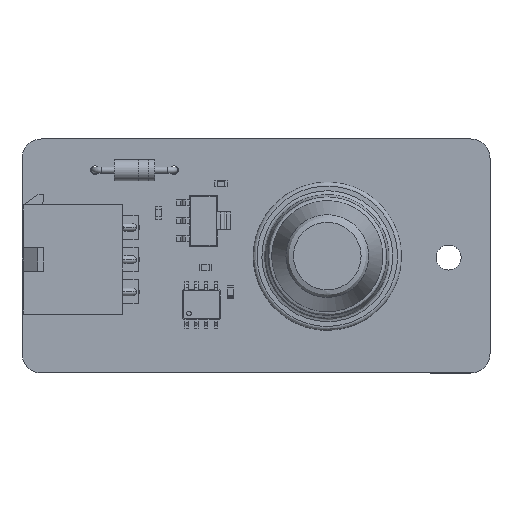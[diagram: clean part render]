
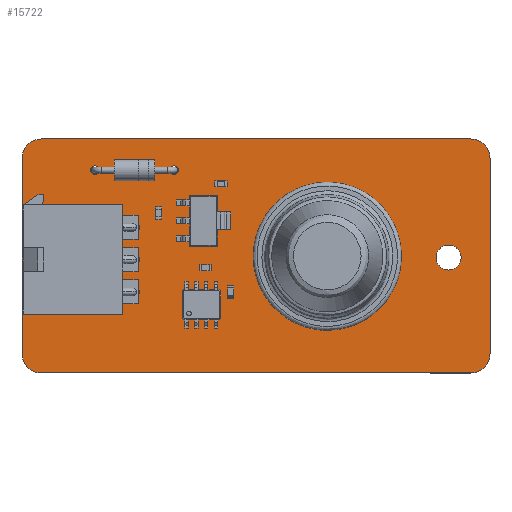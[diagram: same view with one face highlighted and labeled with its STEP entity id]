
A CAD part, top view. The second image highlights one B-rep face of the part: STEP entity #15722.
In plain terms, the highlighted planar face has unit normal (0, 0, 1).
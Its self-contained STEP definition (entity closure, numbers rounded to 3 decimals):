
#15430 = VERTEX_POINT('',#15431);
#15431 = CARTESIAN_POINT('',(166.007,-56.5,1.6));
#15437 = EDGE_CURVE('',#15430,#15438,#15440,.T.);
#15438 = VERTEX_POINT('',#15439);
#15439 = CARTESIAN_POINT('',(168.5,-58.993,1.6));
#15440 = CIRCLE('',#15441,2.493);
#15441 = AXIS2_PLACEMENT_3D('',#15442,#15443,#15444);
#15442 = CARTESIAN_POINT('',(166.007,-58.993,1.6));
#15443 = DIRECTION('',(0.,0.,-1.));
#15444 = DIRECTION('',(0.,1.,0.));
#15472 = VERTEX_POINT('',#15473);
#15473 = CARTESIAN_POINT('',(111.,-56.5,1.6));
#15479 = EDGE_CURVE('',#15472,#15430,#15480,.T.);
#15480 = LINE('',#15481,#15482);
#15481 = CARTESIAN_POINT('',(111.,-56.5,1.6));
#15482 = VECTOR('',#15483,1.);
#15483 = DIRECTION('',(1.,0.,0.));
#15501 = EDGE_CURVE('',#15438,#15502,#15504,.T.);
#15502 = VERTEX_POINT('',#15503);
#15503 = CARTESIAN_POINT('',(168.5,-84.01,1.6));
#15504 = LINE('',#15505,#15506);
#15505 = CARTESIAN_POINT('',(168.5,-58.993,1.6));
#15506 = VECTOR('',#15507,1.);
#15507 = DIRECTION('',(0.,-1.,0.));
#15722 = ADVANCED_FACE('',(#15723,#15769,#15780,#15791,#15802,#15813,
    #15824,#15835,#15846,#15857,#15868,#15879,#15890,#15901),#15912,.T.
  );
#15723 = FACE_BOUND('',#15724,.T.);
#15724 = EDGE_LOOP('',(#15725,#15726,#15727,#15736,#15744,#15753,#15761,
    #15768));
#15725 = ORIENTED_EDGE('',*,*,#15437,.F.);
#15726 = ORIENTED_EDGE('',*,*,#15479,.F.);
#15727 = ORIENTED_EDGE('',*,*,#15728,.F.);
#15728 = EDGE_CURVE('',#15729,#15472,#15731,.T.);
#15729 = VERTEX_POINT('',#15730);
#15730 = CARTESIAN_POINT('',(108.5,-59.,1.6));
#15731 = CIRCLE('',#15732,2.5);
#15732 = AXIS2_PLACEMENT_3D('',#15733,#15734,#15735);
#15733 = CARTESIAN_POINT('',(111.,-59.,1.6));
#15734 = DIRECTION('',(0.,0.,-1.));
#15735 = DIRECTION('',(-1.,0.,-0.));
#15736 = ORIENTED_EDGE('',*,*,#15737,.F.);
#15737 = EDGE_CURVE('',#15738,#15729,#15740,.T.);
#15738 = VERTEX_POINT('',#15739);
#15739 = CARTESIAN_POINT('',(108.497,-84.,1.6));
#15740 = LINE('',#15741,#15742);
#15741 = CARTESIAN_POINT('',(108.497,-84.,1.6));
#15742 = VECTOR('',#15743,1.);
#15743 = DIRECTION('',(0.,1.,0.));
#15744 = ORIENTED_EDGE('',*,*,#15745,.F.);
#15745 = EDGE_CURVE('',#15746,#15738,#15748,.T.);
#15746 = VERTEX_POINT('',#15747);
#15747 = CARTESIAN_POINT('',(110.99,-86.493,1.6));
#15748 = CIRCLE('',#15749,2.493);
#15749 = AXIS2_PLACEMENT_3D('',#15750,#15751,#15752);
#15750 = CARTESIAN_POINT('',(110.99,-84.,1.6));
#15751 = DIRECTION('',(0.,0.,-1.));
#15752 = DIRECTION('',(0.,-1.,-0.));
#15753 = ORIENTED_EDGE('',*,*,#15754,.F.);
#15754 = EDGE_CURVE('',#15755,#15746,#15757,.T.);
#15755 = VERTEX_POINT('',#15756);
#15756 = CARTESIAN_POINT('',(166.01,-86.5,1.6));
#15757 = LINE('',#15758,#15759);
#15758 = CARTESIAN_POINT('',(166.01,-86.5,1.6));
#15759 = VECTOR('',#15760,1.);
#15760 = DIRECTION('',(-1.,0.,0.));
#15761 = ORIENTED_EDGE('',*,*,#15762,.F.);
#15762 = EDGE_CURVE('',#15502,#15755,#15763,.T.);
#15763 = CIRCLE('',#15764,2.49);
#15764 = AXIS2_PLACEMENT_3D('',#15765,#15766,#15767);
#15765 = CARTESIAN_POINT('',(166.01,-84.01,1.6));
#15766 = DIRECTION('',(0.,0.,-1.));
#15767 = DIRECTION('',(1.,0.,0.));
#15768 = ORIENTED_EDGE('',*,*,#15501,.F.);
#15769 = FACE_BOUND('',#15770,.T.);
#15770 = EDGE_LOOP('',(#15771));
#15771 = ORIENTED_EDGE('',*,*,#15772,.T.);
#15772 = EDGE_CURVE('',#15773,#15773,#15775,.T.);
#15773 = VERTEX_POINT('',#15774);
#15774 = CARTESIAN_POINT('',(122.888,-76.8,1.6));
#15775 = CIRCLE('',#15776,0.7);
#15776 = AXIS2_PLACEMENT_3D('',#15777,#15778,#15779);
#15777 = CARTESIAN_POINT('',(122.888,-76.1,1.6));
#15778 = DIRECTION('',(-0.,0.,-1.));
#15779 = DIRECTION('',(-0.,-1.,0.));
#15780 = FACE_BOUND('',#15781,.T.);
#15781 = EDGE_LOOP('',(#15782));
#15782 = ORIENTED_EDGE('',*,*,#15783,.T.);
#15783 = EDGE_CURVE('',#15784,#15784,#15786,.T.);
#15784 = VERTEX_POINT('',#15785);
#15785 = CARTESIAN_POINT('',(115.548,-73.89,1.6));
#15786 = CIRCLE('',#15787,1.93);
#15787 = AXIS2_PLACEMENT_3D('',#15788,#15789,#15790);
#15788 = CARTESIAN_POINT('',(115.548,-71.96,1.6));
#15789 = DIRECTION('',(-0.,0.,-1.));
#15790 = DIRECTION('',(0.,-1.,0.));
#15791 = FACE_BOUND('',#15792,.T.);
#15792 = EDGE_LOOP('',(#15793));
#15793 = ORIENTED_EDGE('',*,*,#15794,.T.);
#15794 = EDGE_CURVE('',#15795,#15795,#15797,.T.);
#15795 = VERTEX_POINT('',#15796);
#15796 = CARTESIAN_POINT('',(122.888,-72.66,1.6));
#15797 = CIRCLE('',#15798,0.7);
#15798 = AXIS2_PLACEMENT_3D('',#15799,#15800,#15801);
#15799 = CARTESIAN_POINT('',(122.888,-71.96,1.6));
#15800 = DIRECTION('',(-0.,0.,-1.));
#15801 = DIRECTION('',(-0.,-1.,0.));
#15802 = FACE_BOUND('',#15803,.T.);
#15803 = EDGE_LOOP('',(#15804));
#15804 = ORIENTED_EDGE('',*,*,#15805,.T.);
#15805 = EDGE_CURVE('',#15806,#15806,#15808,.T.);
#15806 = VERTEX_POINT('',#15807);
#15807 = CARTESIAN_POINT('',(144.24,-75.485,1.6));
#15808 = CIRCLE('',#15809,0.625);
#15809 = AXIS2_PLACEMENT_3D('',#15810,#15811,#15812);
#15810 = CARTESIAN_POINT('',(144.24,-74.86,1.6));
#15811 = DIRECTION('',(-0.,0.,-1.));
#15812 = DIRECTION('',(-0.,-1.,0.));
#15813 = FACE_BOUND('',#15814,.T.);
#15814 = EDGE_LOOP('',(#15815));
#15815 = ORIENTED_EDGE('',*,*,#15816,.T.);
#15816 = EDGE_CURVE('',#15817,#15817,#15819,.T.);
#15817 = VERTEX_POINT('',#15818);
#15818 = CARTESIAN_POINT('',(150.96,-75.485,1.6));
#15819 = CIRCLE('',#15820,0.625);
#15820 = AXIS2_PLACEMENT_3D('',#15821,#15822,#15823);
#15821 = CARTESIAN_POINT('',(150.96,-74.86,1.6));
#15822 = DIRECTION('',(-0.,0.,-1.));
#15823 = DIRECTION('',(-0.,-1.,0.));
#15824 = FACE_BOUND('',#15825,.T.);
#15825 = EDGE_LOOP('',(#15826));
#15826 = ORIENTED_EDGE('',*,*,#15827,.T.);
#15827 = EDGE_CURVE('',#15828,#15828,#15830,.T.);
#15828 = VERTEX_POINT('',#15829);
#15829 = CARTESIAN_POINT('',(142.85,-72.125,1.6));
#15830 = CIRCLE('',#15831,0.625);
#15831 = AXIS2_PLACEMENT_3D('',#15832,#15833,#15834);
#15832 = CARTESIAN_POINT('',(142.85,-71.5,1.6));
#15833 = DIRECTION('',(-0.,0.,-1.));
#15834 = DIRECTION('',(-0.,-1.,0.));
#15835 = FACE_BOUND('',#15836,.T.);
#15836 = EDGE_LOOP('',(#15837));
#15837 = ORIENTED_EDGE('',*,*,#15838,.T.);
#15838 = EDGE_CURVE('',#15839,#15839,#15841,.T.);
#15839 = VERTEX_POINT('',#15840);
#15840 = CARTESIAN_POINT('',(152.35,-72.125,1.6));
#15841 = CIRCLE('',#15842,0.625);
#15842 = AXIS2_PLACEMENT_3D('',#15843,#15844,#15845);
#15843 = CARTESIAN_POINT('',(152.35,-71.5,1.6));
#15844 = DIRECTION('',(-0.,0.,-1.));
#15845 = DIRECTION('',(-0.,-1.,0.));
#15846 = FACE_BOUND('',#15847,.T.);
#15847 = EDGE_LOOP('',(#15848));
#15848 = ORIENTED_EDGE('',*,*,#15849,.T.);
#15849 = EDGE_CURVE('',#15850,#15850,#15852,.T.);
#15850 = VERTEX_POINT('',#15851);
#15851 = CARTESIAN_POINT('',(163.2,-73.3,1.6));
#15852 = CIRCLE('',#15853,1.6);
#15853 = AXIS2_PLACEMENT_3D('',#15854,#15855,#15856);
#15854 = CARTESIAN_POINT('',(163.2,-71.7,1.6));
#15855 = DIRECTION('',(-0.,0.,-1.));
#15856 = DIRECTION('',(-0.,-1.,0.));
#15857 = FACE_BOUND('',#15858,.T.);
#15858 = EDGE_LOOP('',(#15859));
#15859 = ORIENTED_EDGE('',*,*,#15860,.T.);
#15860 = EDGE_CURVE('',#15861,#15861,#15863,.T.);
#15861 = VERTEX_POINT('',#15862);
#15862 = CARTESIAN_POINT('',(122.888,-68.52,1.6));
#15863 = CIRCLE('',#15864,0.7);
#15864 = AXIS2_PLACEMENT_3D('',#15865,#15866,#15867);
#15865 = CARTESIAN_POINT('',(122.888,-67.82,1.6));
#15866 = DIRECTION('',(-0.,0.,-1.));
#15867 = DIRECTION('',(-0.,-1.,0.));
#15868 = FACE_BOUND('',#15869,.T.);
#15869 = EDGE_LOOP('',(#15870));
#15870 = ORIENTED_EDGE('',*,*,#15871,.T.);
#15871 = EDGE_CURVE('',#15872,#15872,#15874,.T.);
#15872 = VERTEX_POINT('',#15873);
#15873 = CARTESIAN_POINT('',(117.84,-61.05,1.6));
#15874 = CIRCLE('',#15875,0.55);
#15875 = AXIS2_PLACEMENT_3D('',#15876,#15877,#15878);
#15876 = CARTESIAN_POINT('',(117.84,-60.5,1.6));
#15877 = DIRECTION('',(-0.,0.,-1.));
#15878 = DIRECTION('',(-0.,-1.,0.));
#15879 = FACE_BOUND('',#15880,.T.);
#15880 = EDGE_LOOP('',(#15881));
#15881 = ORIENTED_EDGE('',*,*,#15882,.T.);
#15882 = EDGE_CURVE('',#15883,#15883,#15885,.T.);
#15883 = VERTEX_POINT('',#15884);
#15884 = CARTESIAN_POINT('',(128.,-61.05,1.6));
#15885 = CIRCLE('',#15886,0.55);
#15886 = AXIS2_PLACEMENT_3D('',#15887,#15888,#15889);
#15887 = CARTESIAN_POINT('',(128.,-60.5,1.6));
#15888 = DIRECTION('',(-0.,0.,-1.));
#15889 = DIRECTION('',(-0.,-1.,0.));
#15890 = FACE_BOUND('',#15891,.T.);
#15891 = EDGE_LOOP('',(#15892));
#15892 = ORIENTED_EDGE('',*,*,#15893,.T.);
#15893 = EDGE_CURVE('',#15894,#15894,#15896,.T.);
#15894 = VERTEX_POINT('',#15895);
#15895 = CARTESIAN_POINT('',(144.24,-68.765,1.6));
#15896 = CIRCLE('',#15897,0.625);
#15897 = AXIS2_PLACEMENT_3D('',#15898,#15899,#15900);
#15898 = CARTESIAN_POINT('',(144.24,-68.14,1.6));
#15899 = DIRECTION('',(-0.,0.,-1.));
#15900 = DIRECTION('',(-0.,-1.,0.));
#15901 = FACE_BOUND('',#15902,.T.);
#15902 = EDGE_LOOP('',(#15903));
#15903 = ORIENTED_EDGE('',*,*,#15904,.T.);
#15904 = EDGE_CURVE('',#15905,#15905,#15907,.T.);
#15905 = VERTEX_POINT('',#15906);
#15906 = CARTESIAN_POINT('',(150.96,-68.765,1.6));
#15907 = CIRCLE('',#15908,0.625);
#15908 = AXIS2_PLACEMENT_3D('',#15909,#15910,#15911);
#15909 = CARTESIAN_POINT('',(150.96,-68.14,1.6));
#15910 = DIRECTION('',(-0.,0.,-1.));
#15911 = DIRECTION('',(-0.,-1.,0.));
#15912 = PLANE('',#15913);
#15913 = AXIS2_PLACEMENT_3D('',#15914,#15915,#15916);
#15914 = CARTESIAN_POINT('',(0.,0.,1.6));
#15915 = DIRECTION('',(0.,0.,1.));
#15916 = DIRECTION('',(1.,0.,-0.));
